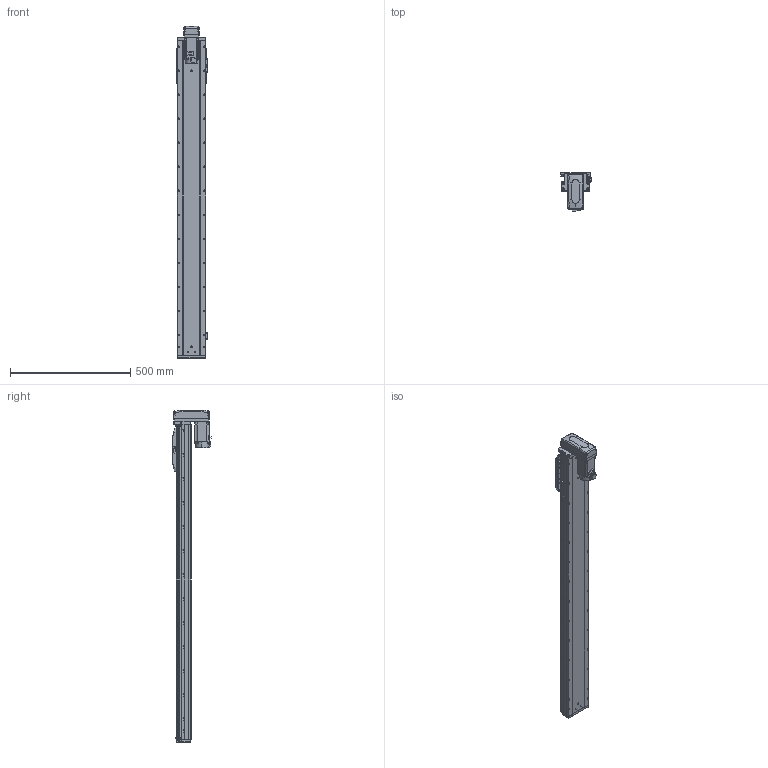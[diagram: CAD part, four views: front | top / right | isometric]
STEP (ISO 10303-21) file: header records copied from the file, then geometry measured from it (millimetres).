
FILE_DESCRIPTION (( 'STEP AP203' ), '1' );
FILE_NAME ('GTH12-1100-BM-M40-C4.step', '2022-09-29T02:00:12', ( '微软用户' ), ( '微软中国' ), 'SwSTEP 2.0', 'SolidWorks 2020', '' );
FILE_SCHEMA (( 'CONFIG_CONTROL_DESIGN' ));
Length unit declared in the file: millimetre
Products named in the file (18): GBT 70.1-M5×16; BTH-M3X5X6; GTH120-001_1100; GBT 70.3-M3℅8; hg-kn43j_-s100_; GTH120-003; GTH80-022; CTHA86-033_M40B; GTH120-006; GTH80-028; GTH120-027-1_GTH120-027-2; GTH120-004; GTH50-023; GTH12-1100-BM-M40-C4; GTH120-013; GTH50-024; GBT 70.1-M3℅6; GBT96.1-2002 3×0.8
Assembly tree (59 placements, depth 2):
  GTH12-1100-BM-M40-C4
    GTH120-001_1100
    GTH120-003
    GTH120-006
    GTH120-004
    GTH120-013
    GBT 70.1-M3℅6  x14
    GBT 70.1-M5×16  x10
    GBT 70.3-M3℅8  x4
    GTH80-022
    GTH80-028  x2
    GTH50-023  x3
    GTH50-024  x3
    GBT96.1-2002 3×0.8  x6
    BTH-M3X5X6  x8
    hg-kn43j_-s100_
    CTHA86-033_M40B
    GTH120-027-1_GTH120-027-2
Bounding box: 125.7 x 159.8 x 1382 mm (x, y, z)
Volume: 9793929 mm3; surface area: 821362.3 mm2
Topology: 61 solids, 61 shells, 2566 faces, 6021 edges, 3697 vertices
Faces by surface type: plane 1302, cylinder 764, cone 312, torus 174, sphere 8, bspline 6
Entity records: 49443 total; most frequent: CARTESIAN_POINT 8414, DIRECTION 8229, ORIENTED_EDGE 7652, EDGE_CURVE 3826, AXIS2_PLACEMENT_3D 2877, VECTOR 2475, LINE 2475, VERTEX_POINT 2418
